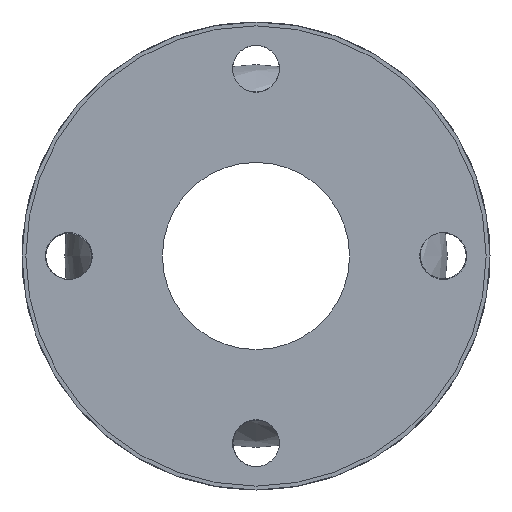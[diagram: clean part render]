
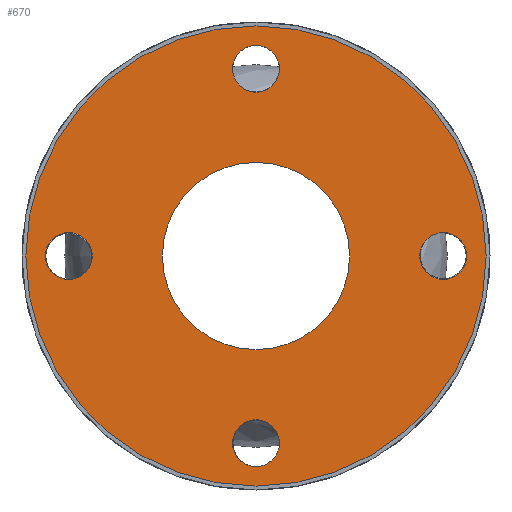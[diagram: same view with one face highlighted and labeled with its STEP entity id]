
A CAD part, left-side view. The second image highlights one B-rep face of the part: STEP entity #670.
In plain terms, the highlighted planar face has unit normal (-1, 0, 0).
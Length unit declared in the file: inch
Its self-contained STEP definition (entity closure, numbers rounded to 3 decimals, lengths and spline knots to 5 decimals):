
#247=CARTESIAN_POINT('',(-3.0,0.375,-3.));
#248=VERTEX_POINT('',#247);
#249=CARTESIAN_POINT('',(-3.0,0.,-3.));
#250=DIRECTION('',(1.0,0.0,0.0));
#251=DIRECTION('',(0.0,1.0,0.0));
#252=AXIS2_PLACEMENT_3D('',#249,#250,#251);
#253=CIRCLE('',#252,0.375);
#254=EDGE_CURVE('',#248,#248,#253,.T.);
#275=CARTESIAN_POINT('',(-3.0,-3.,-0.375));
#276=VERTEX_POINT('',#275);
#277=CARTESIAN_POINT('',(-3.0,-3.,0.));
#278=DIRECTION('',(1.0,0.0,0.0));
#279=DIRECTION('',(0.0,0.0,-1.0));
#280=AXIS2_PLACEMENT_3D('',#277,#278,#279);
#281=CIRCLE('',#280,0.375);
#282=EDGE_CURVE('',#276,#276,#281,.T.);
#303=CARTESIAN_POINT('',(-3.0,-0.375,3.));
#304=VERTEX_POINT('',#303);
#305=CARTESIAN_POINT('',(-3.0,0.,3.));
#306=DIRECTION('',(1.0,0.0,0.0));
#307=DIRECTION('',(0.0,-1.0,0.0));
#308=AXIS2_PLACEMENT_3D('',#305,#306,#307);
#309=CIRCLE('',#308,0.375);
#310=EDGE_CURVE('',#304,#304,#309,.T.);
#331=CARTESIAN_POINT('',(-3.0,3.,0.375));
#332=VERTEX_POINT('',#331);
#333=CARTESIAN_POINT('',(-3.0,3.,0.0));
#334=DIRECTION('',(1.0,0.0,0.0));
#335=DIRECTION('',(0.0,0.0,1.0));
#336=AXIS2_PLACEMENT_3D('',#333,#334,#335);
#337=CIRCLE('',#336,0.375);
#338=EDGE_CURVE('',#332,#332,#337,.T.);
#359=CARTESIAN_POINT('',(-3.0,3.6875,0.0));
#360=VERTEX_POINT('',#359);
#361=CARTESIAN_POINT('',(-3.0,0.0,0.0));
#362=DIRECTION('',(1.0,0.0,0.0));
#363=DIRECTION('',(0.0,1.0,0.0));
#364=AXIS2_PLACEMENT_3D('',#361,#362,#363);
#365=CIRCLE('',#364,3.6875);
#366=EDGE_CURVE('',#360,#360,#365,.T.);
#632=CARTESIAN_POINT('',(-3.0,1.5,0.0));
#633=VERTEX_POINT('',#632);
#634=CARTESIAN_POINT('',(-3.0,0.0,0.0));
#635=DIRECTION('',(1.0,0.0,0.0));
#636=DIRECTION('',(0.0,1.0,0.0));
#637=AXIS2_PLACEMENT_3D('',#634,#635,#636);
#638=CIRCLE('',#637,1.5);
#639=EDGE_CURVE('',#633,#633,#638,.T.);
#647=CARTESIAN_POINT('',(-3.0,2.59375,0.0));
#648=DIRECTION('',(-1.0,0.0,0.0));
#649=DIRECTION('',(0.0,0.0,1.0));
#650=AXIS2_PLACEMENT_3D('',#647,#648,#649);
#651=PLANE('',#650);
#652=ORIENTED_EDGE('',*,*,#366,.F.);
#653=EDGE_LOOP('',(#652));
#654=FACE_OUTER_BOUND('',#653,.T.);
#655=ORIENTED_EDGE('',*,*,#254,.T.);
#656=EDGE_LOOP('',(#655));
#657=FACE_BOUND('',#656,.T.);
#658=ORIENTED_EDGE('',*,*,#282,.T.);
#659=EDGE_LOOP('',(#658));
#660=FACE_BOUND('',#659,.T.);
#661=ORIENTED_EDGE('',*,*,#310,.T.);
#662=EDGE_LOOP('',(#661));
#663=FACE_BOUND('',#662,.T.);
#664=ORIENTED_EDGE('',*,*,#338,.T.);
#665=EDGE_LOOP('',(#664));
#666=FACE_BOUND('',#665,.T.);
#667=ORIENTED_EDGE('',*,*,#639,.T.);
#668=EDGE_LOOP('',(#667));
#669=FACE_BOUND('',#668,.T.);
#670=ADVANCED_FACE('',(#654,#657,#660,#663,#666,#669),#651,.T.);
